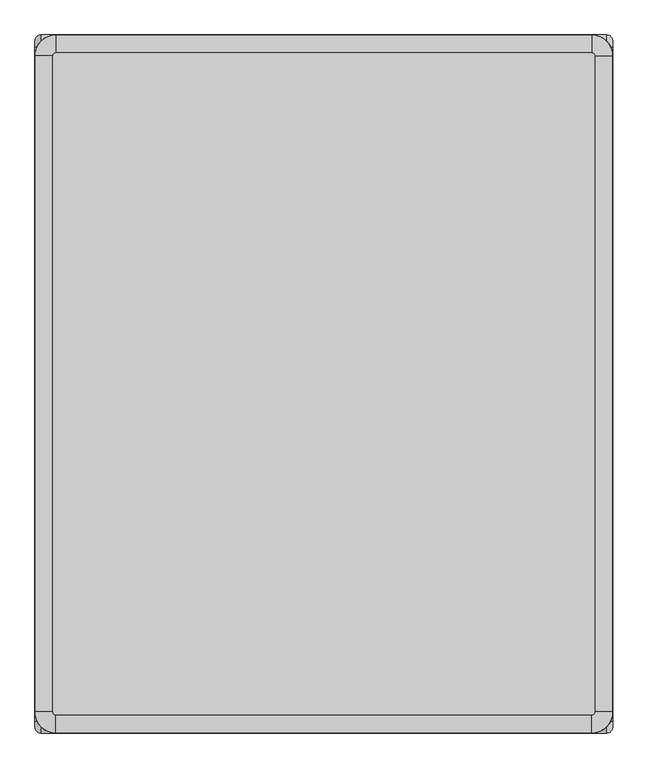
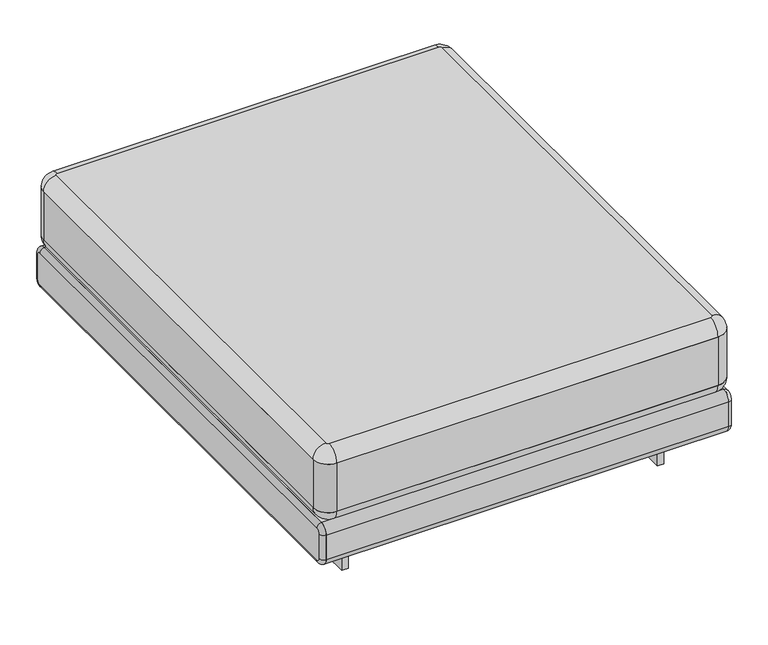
"""IFC4 building model written with IfcOpenShell, lengths in millimetres: furniture geometry, Ottoman_Bensen_Elle_ELD000 : Ottoman_Bensen_Elle_ELD000."""

from ifc_helpers import new_model, si_unit, point, frame, frame_2d, origin, origin_with_axes, place, context, project, spatial, polyline, circle_curve, ellipse_curve, trimmed, segment, composite_curve, outline, extrude, source, transform, mapped, element, save
from ifc_brep_helpers import plane_surface, cylinder_surface, revolved_surface, advanced_brep


def furniture_bdf2a79c(model_context):
    return source(origin(), model_context, "Body", "SolidModel", [
        advanced_brep(
        [(445.0, -549.9876377, 379.9974677), (450.0, -544.9876377, 379.9974643), (450.0, 545.0123623, 379.9967266), (445.0, 550.0123623, 379.9967232), (-445.0, 550.0123623, 379.9967232), (-450.0, 545.0123623, 379.9967266), (-450.0, -544.9876377, 379.9974643), (-445.0, -549.9876377, 379.9974677), (480.0, -544.987658, 349.9974643), (445.0, -579.987658, 349.997488), (-445.0, -579.987658, 349.997488), (-480.0, -544.987658, 349.9974643), (-480.0, 545.012342, 349.9967266), (-445.0, 580.012342, 349.9967029), (445.0, 580.012342, 349.9967029), (480.0, 545.012342, 349.9967266)],
        [
            (0, 1, circle_curve(frame((445.0, -544.9876377, 379.9974643), z_axis=(0.0, 6.768624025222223e-07, 0.999999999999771), x_axis=(1.0, 0.0, 0.0)), 5.0)),
            (1, 2),
            (2, 3, circle_curve(frame((445.0, 545.0123623, 379.9967266), z_axis=(0.0, 6.768624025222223e-07, 0.999999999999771), x_axis=(0.0, 0.999999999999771, -6.768624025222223e-07)), 5.0)),
            (3, 4),
            (4, 5, circle_curve(frame((-445.0, 545.0123623, 379.9967266), z_axis=(0.0, 6.768624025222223e-07, 0.999999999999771), x_axis=(-1.0, 0.0, 0.0)), 5.0)),
            (5, 6),
            (6, 7, circle_curve(frame((-445.0, -544.9876377, 379.9974643), z_axis=(0.0, 6.768624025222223e-07, 0.999999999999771), x_axis=(0.0, -0.999999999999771, 6.768624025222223e-07)), 5.0)),
            (7, 0),
            (8, 9, circle_curve(frame((445.0, -544.987658, 349.9974643), z_axis=(0.0, -6.768624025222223e-07, -0.999999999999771), x_axis=(1.0, 0.0, 0.0)), 35.0)),
            (9, 10),
            (10, 11, circle_curve(frame((-445.0, -544.987658, 349.9974643), z_axis=(0.0, -6.768624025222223e-07, -0.999999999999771), x_axis=(0.0, -0.999999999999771, 6.768624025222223e-07)), 35.0)),
            (11, 12),
            (12, 13, circle_curve(frame((-445.0, 545.012342, 349.9967266), z_axis=(0.0, -6.768624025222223e-07, -0.999999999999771), x_axis=(-1.0, 0.0, 0.0)), 35.0)),
            (13, 14),
            (14, 15, circle_curve(frame((445.0, 545.012342, 349.9967266), z_axis=(0.0, -6.768624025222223e-07, -0.999999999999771), x_axis=(0.0, 0.999999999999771, -6.768624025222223e-07)), 35.0)),
            (15, 8),
            (8, 1, circle_curve(frame((450.0, -544.987658, 349.9974643), z_axis=(0.0, -0.999999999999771, 6.768624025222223e-07), x_axis=(1.0, 0.0, 0.0)), 30.0)),
            (0, 9, circle_curve(frame((445.0, -549.987658, 349.9974677), z_axis=(1.0, 0.0, 0.0), x_axis=(0.0, -0.999999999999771, 6.768624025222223e-07)), 30.0)),
            (7, 10, circle_curve(frame((-445.0, -549.987658, 349.9974677), z_axis=(1.0, 0.0, 0.0), x_axis=(0.0, -0.999999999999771, 6.768624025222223e-07)), 30.0)),
            (6, 11, circle_curve(frame((-450.0, -544.987658, 349.9974643), z_axis=(0.0, -0.999999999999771, 6.768624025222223e-07), x_axis=(-1.0, 0.0, 0.0)), 30.0)),
            (5, 12, circle_curve(frame((-450.0, 545.012342, 349.9967266), z_axis=(0.0, -0.999999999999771, 6.768624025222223e-07), x_axis=(-1.0, 0.0, 0.0)), 30.0)),
            (4, 13, circle_curve(frame((-445.0, 550.012342, 349.9967232), z_axis=(-1.0, 0.0, 0.0), x_axis=(0.0, 0.999999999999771, -6.768624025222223e-07)), 30.0)),
            (3, 14, circle_curve(frame((445.0, 550.012342, 349.9967232), z_axis=(-1.0, 0.0, 0.0), x_axis=(0.0, 0.999999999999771, -6.768624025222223e-07)), 30.0)),
            (2, 15, circle_curve(frame((450.0, 545.012342, 349.9967266), z_axis=(0.0, 0.999999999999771, -6.768624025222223e-07), x_axis=(1.0, 0.0, 0.0)), 30.0)),
        ],
        [
            plane_surface(frame((445.0, 540.0123623, 379.9967299), z_axis=(0.0, 6.768624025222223e-07, 0.999999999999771), x_axis=(1.0, 0.0, 0.0))),
            plane_surface(frame((445.0, 540.012342, 349.9967299), z_axis=(0.0, -6.768624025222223e-07, -0.999999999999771), x_axis=(-1.0, 0.0, 0.0))),
            revolved_surface(trimmed(ellipse_curve(frame((450.0, -544.987658, 349.9974643), z_axis=(0.0, 0.999999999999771, -6.768624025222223e-07), x_axis=(1.0, 0.0, 0.0)), 30.0, 30.0), [point((450.0, -544.9876377, 379.9974643))], [point((480.0, -544.987658, 349.9974643))], True, "CARTESIAN"), (445.0, -544.9877731, 179.9974643), (0.0, -6.768624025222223e-07, -0.999999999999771)),
            cylinder_surface(frame((445.0, -549.987658, 349.9974677), z_axis=(1.0, 0.0, 0.0), x_axis=(0.0, -0.999999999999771, 6.768624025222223e-07)), 30.0),
            revolved_surface(trimmed(ellipse_curve(frame((-445.0, -549.987658, 349.9974677), z_axis=(1.0, 0.0, 0.0), x_axis=(0.0, -0.999999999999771, 6.768624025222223e-07)), 30.0, 30.0), [point((-445.0, -549.9876377, 379.9974677))], [point((-445.0, -579.987658, 349.997488))], True, "CARTESIAN"), (-445.0, -544.9877731, 179.9974643), (0.0, -6.768624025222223e-07, -0.999999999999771)),
            cylinder_surface(frame((-450.0, -544.987658, 349.9974643), z_axis=(0.0, -0.999999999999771, 6.768624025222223e-07), x_axis=(-1.0, 0.0, 0.0)), 30.0),
            revolved_surface(trimmed(ellipse_curve(frame((-450.0, 545.012342, 349.9967266), z_axis=(0.0, -0.999999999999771, 6.768624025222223e-07), x_axis=(-1.0, 0.0, 0.0)), 30.0, 30.0), [point((-450.0, 545.0123623, 379.9967266))], [point((-480.0, 545.012342, 349.9967266))], True, "CARTESIAN"), (-445.0, 545.0122269, 179.9967266), (0.0, -6.768624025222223e-07, -0.999999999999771)),
            cylinder_surface(frame((-445.0, 550.012342, 349.9967232), z_axis=(-1.0, 0.0, 0.0), x_axis=(0.0, 0.999999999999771, -6.768624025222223e-07)), 30.0),
            revolved_surface(trimmed(ellipse_curve(frame((445.0, 550.012342, 349.9967232), z_axis=(-1.0, 0.0, 0.0), x_axis=(0.0, 0.999999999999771, -6.768624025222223e-07)), 30.0, 30.0), [point((445.0, 550.0123623, 379.9967232))], [point((445.0, 580.012342, 349.9967029))], True, "CARTESIAN"), (445.0, 545.0122269, 179.9967266), (0.0, -6.768624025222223e-07, -0.999999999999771)),
            cylinder_surface(frame((450.0, 545.012342, 349.9967266), z_axis=(0.0, 0.999999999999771, -6.768624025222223e-07), x_axis=(1.0, 0.0, 0.0)), 30.0),
        ],
        [
            (0, [[1, 2, 3, 4, 5, 6, 7, 8]]),
            (1, [[9, 10, 11, 12, 13, 14, 15, 16]]),
            (2, [[-9, 17, -1, 18]]),
            (3, [[-18, -8, 19, -10]]),
            (4, [[-19, -7, 20, -11]]),
            (5, [[-20, -6, 21, -12]]),
            (6, [[-21, -5, 22, -13]]),
            (7, [[-22, -4, 23, -14]]),
            (8, [[-23, -3, 24, -15]]),
            (9, [[-17, -16, -24, -2]]),
        ],
    ),
        advanced_brep(
        [(445.0, -579.9877393, 229.997488), (480.0, -544.9877393, 229.9974643), (480.0, 545.0122607, 229.9967266), (445.0, 580.0122607, 229.9967029), (-445.0, 580.0122607, 229.9967029), (-480.0, 545.0122607, 229.9967266), (-480.0, -544.9877393, 229.9974643), (-445.0, -579.9877393, 229.997488), (450.0, -544.9877596, 199.9974643), (445.0, -549.9877596, 199.9974677), (-445.0, -549.9877596, 199.9974677), (-450.0, -544.9877596, 199.9974643), (-450.0, 545.0122404, 199.9967266), (-445.0, 550.0122404, 199.9967232), (445.0, 550.0122404, 199.9967232), (450.0, 545.0122404, 199.9967266)],
        [
            (0, 1, circle_curve(frame((445.0, -544.9877393, 229.9974643), z_axis=(0.0, 6.768624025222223e-07, 0.999999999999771), x_axis=(1.0, 0.0, 0.0)), 35.0)),
            (1, 2),
            (2, 3, circle_curve(frame((445.0, 545.0122607, 229.9967266), z_axis=(0.0, 6.768624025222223e-07, 0.999999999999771), x_axis=(0.0, 0.999999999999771, -6.768624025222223e-07)), 35.0)),
            (3, 4),
            (4, 5, circle_curve(frame((-445.0, 545.0122607, 229.9967266), z_axis=(0.0, 6.768624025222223e-07, 0.999999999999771), x_axis=(-1.0, 0.0, 0.0)), 35.0)),
            (5, 6),
            (6, 7, circle_curve(frame((-445.0, -544.9877393, 229.9974643), z_axis=(0.0, 6.768624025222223e-07, 0.999999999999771), x_axis=(0.0, -0.999999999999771, 6.768624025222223e-07)), 35.0)),
            (7, 0),
            (8, 9, circle_curve(frame((445.0, -544.9877596, 199.9974643), z_axis=(0.0, -6.768624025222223e-07, -0.999999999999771), x_axis=(1.0, 0.0, 0.0)), 5.0)),
            (9, 10),
            (10, 11, circle_curve(frame((-445.0, -544.9877596, 199.9974643), z_axis=(0.0, -6.768624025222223e-07, -0.999999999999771), x_axis=(0.0, -0.999999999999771, 6.768624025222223e-07)), 5.0)),
            (11, 12),
            (12, 13, circle_curve(frame((-445.0, 545.0122404, 199.9967266), z_axis=(0.0, -6.768624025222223e-07, -0.999999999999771), x_axis=(-1.0, 0.0, 0.0)), 5.0)),
            (13, 14),
            (14, 15, circle_curve(frame((445.0, 545.0122404, 199.9967266), z_axis=(0.0, -6.768624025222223e-07, -0.999999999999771), x_axis=(0.0, 0.999999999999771, -6.768624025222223e-07)), 5.0)),
            (15, 8),
            (8, 1, circle_curve(frame((450.0, -544.9877393, 229.9974643), z_axis=(0.0, -0.999999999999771, 6.768624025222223e-07), x_axis=(1.0, 0.0, 0.0)), 30.0)),
            (0, 9, circle_curve(frame((445.0, -549.9877393, 229.9974677), z_axis=(1.0, 0.0, 0.0), x_axis=(0.0, -0.999999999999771, 6.768624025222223e-07)), 30.0)),
            (7, 10, circle_curve(frame((-445.0, -549.9877393, 229.9974677), z_axis=(1.0, 0.0, 0.0), x_axis=(0.0, -0.999999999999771, 6.768624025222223e-07)), 30.0)),
            (6, 11, circle_curve(frame((-450.0, -544.9877393, 229.9974643), z_axis=(0.0, -0.999999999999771, 6.768624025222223e-07), x_axis=(-1.0, 0.0, 0.0)), 30.0)),
            (5, 12, circle_curve(frame((-450.0, 545.0122607, 229.9967266), z_axis=(0.0, -0.999999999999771, 6.768624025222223e-07), x_axis=(-1.0, 0.0, 0.0)), 30.0)),
            (4, 13, circle_curve(frame((-445.0, 550.0122607, 229.9967232), z_axis=(-1.0, 0.0, 0.0), x_axis=(0.0, 0.999999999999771, -6.768624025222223e-07)), 30.0)),
            (3, 14, circle_curve(frame((445.0, 550.0122607, 229.9967232), z_axis=(-1.0, 0.0, 0.0), x_axis=(0.0, 0.999999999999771, -6.768624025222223e-07)), 30.0)),
            (2, 15, circle_curve(frame((450.0, 545.0122607, 229.9967266), z_axis=(0.0, 0.999999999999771, -6.768624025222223e-07), x_axis=(1.0, 0.0, 0.0)), 30.0)),
        ],
        [
            plane_surface(frame((445.0, 540.0122607, 229.9967299), z_axis=(0.0, 6.768624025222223e-07, 0.999999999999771), x_axis=(1.0, 0.0, 0.0))),
            plane_surface(frame((445.0, 540.0122404, 199.9967299), z_axis=(0.0, -6.768624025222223e-07, -0.999999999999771), x_axis=(-1.0, 0.0, 0.0))),
            revolved_surface(trimmed(ellipse_curve(frame((450.0, -544.9877393, 229.9974643), z_axis=(0.0, 0.999999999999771, -6.768624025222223e-07), x_axis=(1.0, 0.0, 0.0)), 30.0, 30.0), [point((480.0, -544.9877393, 229.9974643))], [point((450.0, -544.9877596, 199.9974643))], True, "CARTESIAN"), (445.0, -544.9877393, 229.9974643), (0.0, -6.768624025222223e-07, -0.999999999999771)),
            cylinder_surface(frame((445.0, -549.9877393, 229.9974677), z_axis=(1.0, 0.0, 0.0), x_axis=(0.0, -0.999999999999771, 6.768624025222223e-07)), 30.0),
            revolved_surface(trimmed(ellipse_curve(frame((-445.0, -549.9877393, 229.9974677), z_axis=(1.0, 0.0, 0.0), x_axis=(0.0, -0.999999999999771, 6.768624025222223e-07)), 30.0, 30.0), [point((-445.0, -579.9877393, 229.997488))], [point((-445.0, -549.9877596, 199.9974677))], True, "CARTESIAN"), (-445.0, -544.9877393, 229.9974643), (0.0, -6.768624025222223e-07, -0.999999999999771)),
            cylinder_surface(frame((-450.0, -544.9877393, 229.9974643), z_axis=(0.0, -0.999999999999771, 6.768624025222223e-07), x_axis=(-1.0, 0.0, 0.0)), 30.0),
            revolved_surface(trimmed(ellipse_curve(frame((-450.0, 545.0122607, 229.9967266), z_axis=(0.0, -0.999999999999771, 6.768624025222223e-07), x_axis=(-1.0, 0.0, 0.0)), 30.0, 30.0), [point((-480.0, 545.0122607, 229.9967266))], [point((-450.0, 545.0122404, 199.9967266))], True, "CARTESIAN"), (-445.0, 545.0122607, 229.9967266), (0.0, -6.768624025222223e-07, -0.999999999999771)),
            cylinder_surface(frame((-445.0, 550.0122607, 229.9967232), z_axis=(-1.0, 0.0, 0.0), x_axis=(0.0, 0.999999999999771, -6.768624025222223e-07)), 30.0),
            revolved_surface(trimmed(ellipse_curve(frame((445.0, 550.0122607, 229.9967232), z_axis=(-1.0, 0.0, 0.0), x_axis=(0.0, 0.999999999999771, -6.768624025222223e-07)), 30.0, 30.0), [point((445.0, 580.0122607, 229.9967029))], [point((445.0, 550.0122404, 199.9967232))], True, "CARTESIAN"), (445.0, 545.0122607, 229.9967266), (0.0, -6.768624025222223e-07, -0.999999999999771)),
            cylinder_surface(frame((450.0, 545.0122607, 229.9967266), z_axis=(0.0, 0.999999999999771, -6.768624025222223e-07), x_axis=(1.0, 0.0, 0.0)), 30.0),
        ],
        [
            (0, [[1, 2, 3, 4, 5, 6, 7, 8]]),
            (1, [[9, 10, 11, 12, 13, 14, 15, 16]]),
            (2, [[17, -1, 18, -9]]),
            (3, [[-18, -8, 19, -10]]),
            (4, [[-19, -7, 20, -11]]),
            (5, [[-20, -6, 21, -12]]),
            (6, [[-21, -5, 22, -13]]),
            (7, [[-22, -4, 23, -14]]),
            (8, [[-23, -3, 24, -15]]),
            (9, [[-17, -16, -24, -2]]),
        ],
    ),
        extrude(outline(composite_curve([segment(polyline([(-35.0, -35.0), (-35.0, 1055.0)]), True, "CONTINUOUS"), segment(trimmed(circle_curve(frame_2d((0.0, 1055.0)), 35.0), [point((-35.0, 1055.0))], [point((0.0, 1090.0))], False, "CARTESIAN"), True, "CONTINUOUS"), segment(polyline([(0.0, 1090.0), (890.0, 1090.0)]), True, "CONTINUOUS"), segment(trimmed(circle_curve(frame_2d((890.0, 1055.0)), 35.0), [point((890.0, 1090.0))], [point((925.0, 1055.0))], False, "CARTESIAN"), True, "CONTINUOUS"), segment(polyline([(925.0, 1055.0), (925.0, -35.0)]), True, "CONTINUOUS"), segment(trimmed(circle_curve(frame_2d((890.0, -35.0)), 35.0), [point((925.0, -35.0))], [point((890.0, -70.0))], False, "CARTESIAN"), True, "CONTINUOUS"), segment(polyline([(890.0, -70.0), (0.0, -70.0)]), True, "CONTINUOUS"), segment(trimmed(circle_curve(frame_2d((0.0, -35.0)), 35.0), [point((0.0, -70.0))], [point((-35.0, -35.0))], False, "CARTESIAN"), True, "CONTINUOUS")], self_intersect=False)), frame((445.0, 510.0122607, 229.9967503), z_axis=(0.0, 6.768624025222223e-07, 0.999999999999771), x_axis=(-1.0, 0.0, 0.0)), (0.0, 0.0, 1.0), 120.0),
        extrude(outline(polyline([(-360.9723101, 400.0000473), (-375.9723101, 400.0000473), (-375.9723101, 460.0000473), (-360.9723101, 460.0000473), (-360.9723101, 400.0000473)])), origin_with_axes(), (0.0, 0.0, 1.0), 100.0),
        extrude(outline(polyline([(375.9723055, 400.0000473), (360.9723055, 400.0000473), (360.9723055, 460.0000473), (375.9723055, 460.0000473), (375.9723055, 400.0000473)])), origin_with_axes(), (0.0, 0.0, 1.0), 100.0),
        extrude(outline(polyline([(-360.9723101, -479.9999527), (-375.9723101, -479.9999527), (-375.9723101, -419.9999527), (-360.9723101, -419.9999527), (-360.9723101, -479.9999527)])), origin_with_axes(), (0.0, 0.0, 1.0), 100.0),
        extrude(outline(polyline([(375.9723055, -479.9999527), (360.9723055, -479.9999527), (360.9723055, -419.9999527), (375.9723055, -419.9999527), (375.9723055, -479.9999527)])), origin_with_axes(), (0.0, 0.0, 1.0), 100.0),
        advanced_brep(
        [(480.0, 570.012342, 179.9976602), (470.0, 580.012342, 179.9976602), (470.0, 560.012342, 199.9976602), (480.0, 560.012342, 189.9976602), (470.0, -559.9999527, 199.9976602), (480.0, -559.9999527, 189.9976602), (480.0, -569.9999527, 179.9976602), (470.0, -579.9999527, 179.9976602), (470.0, -579.9999527, 119.995172), (480.0, -569.9999527, 119.995172), (470.0, -559.9999527, 99.995172), (480.0, -559.9999527, 109.995172), (470.0, 560.012342, 99.995172), (480.0, 560.012342, 109.995172), (470.0, 580.012342, 119.995172), (480.0, 570.012342, 119.995172)],
        [
            (0, 1, circle_curve(frame((470.0, 570.012342, 179.9976602), z_axis=(0.0, 0.0, 1.0), x_axis=(-1.0, 0.0, 0.0)), 10.0)),
            (1, 2, circle_curve(frame((470.0, 560.012342, 179.9976602), z_axis=(1.0, 0.0, 0.0), x_axis=(0.0, 1.0, 0.0)), 20.0)),
            (2, 3, circle_curve(frame((470.0, 560.012342, 189.9976602), z_axis=(0.0, 1.0, 0.0), x_axis=(-1.0, 0.0, 0.0)), 10.0)),
            (3, 0, circle_curve(frame((480.0, 560.012342, 179.9976602), z_axis=(-1.0, 0.0, 0.0), x_axis=(0.0, 1.0, 0.0)), 10.0)),
            (2, 4),
            (4, 5, circle_curve(frame((470.0, -559.9999527, 189.9976602), z_axis=(0.0, 1.0, 0.0), x_axis=(-1.0, 0.0, 0.0)), 10.0)),
            (5, 3),
            (6, 7, circle_curve(frame((470.0, -569.9999527, 179.9976602), z_axis=(0.0, 0.0, -1.0), x_axis=(-1.0, 0.0, 0.0)), 10.0)),
            (7, 8),
            (8, 9, circle_curve(frame((470.0, -569.9999527, 119.995172), z_axis=(0.0, 0.0, 1.0), x_axis=(-1.0, 0.0, 0.0)), 10.0)),
            (9, 6),
            (8, 10, circle_curve(frame((470.0, -559.9999527, 119.995172), z_axis=(1.0, 0.0, 0.0), x_axis=(0.0, -1.0, 0.0)), 20.0)),
            (10, 11, circle_curve(frame((470.0, -559.9999527, 109.995172), z_axis=(0.0, -1.0, 0.0), x_axis=(-1.0, 0.0, 0.0)), 10.0)),
            (11, 9, circle_curve(frame((480.0, -559.9999527, 119.995172), z_axis=(-1.0, 0.0, 0.0), x_axis=(0.0, -1.0, 0.0)), 10.0)),
            (10, 12),
            (12, 13, circle_curve(frame((470.0, 560.012342, 109.995172), z_axis=(0.0, -1.0, 0.0), x_axis=(-1.0, 0.0, 0.0)), 10.0)),
            (13, 11),
            (12, 14, circle_curve(frame((470.0, 560.012342, 119.995172), z_axis=(1.0, 0.0, 0.0), x_axis=(0.0, 0.0, -1.0)), 20.0)),
            (14, 15, circle_curve(frame((470.0, 570.012342, 119.995172), z_axis=(0.0, 0.0, -1.0), x_axis=(-1.0, 0.0, 0.0)), 10.0)),
            (15, 13, circle_curve(frame((480.0, 560.012342, 119.995172), z_axis=(-1.0, 0.0, 0.0), x_axis=(0.0, 0.0, -1.0)), 10.0)),
            (0, 15),
            (14, 1),
            (4, 7, circle_curve(frame((470.0, -559.9999527, 179.9976602), z_axis=(1.0, 0.0, 0.0), x_axis=(0.0, 0.0, 1.0)), 20.0)),
            (6, 5, circle_curve(frame((480.0, -559.9999527, 179.9976602), z_axis=(-1.0, 0.0, 0.0), x_axis=(0.0, 0.0, 1.0)), 10.0)),
        ],
        [
            revolved_surface(trimmed(ellipse_curve(frame((470.0, 570.012342, 179.9976602), z_axis=(0.0, 0.0, -1.0), x_axis=(-1.0, 0.0, 0.0)), 10.0, 10.0), [point((470.0, 580.012342, 179.9976602))], [point((480.0, 570.012342, 179.9976602))], True, "CARTESIAN"), (470.0, 560.012342, 179.9976602), (1.0, 0.0, 0.0)),
            cylinder_surface(frame((470.0, 560.012342, 189.9976602), z_axis=(0.0, 1.0, 0.0), x_axis=(-1.0, 0.0, 0.0)), 10.0),
            cylinder_surface(frame((470.0, -569.9999527, 179.9976602), z_axis=(0.0, 0.0, 1.0), x_axis=(-1.0, 0.0, 0.0)), 10.0),
            revolved_surface(trimmed(ellipse_curve(frame((470.0, -569.9999527, 119.995172), z_axis=(0.0, 0.0, 1.0), x_axis=(-1.0, 0.0, 0.0)), 10.0, 10.0), [point((470.0, -579.9999527, 119.995172))], [point((480.0, -569.9999527, 119.995172))], True, "CARTESIAN"), (470.0, -559.9999527, 119.995172), (1.0, 0.0, 0.0)),
            cylinder_surface(frame((470.0, -559.9999527, 109.995172), z_axis=(0.0, -1.0, 0.0), x_axis=(-1.0, 0.0, 0.0)), 10.0),
            revolved_surface(trimmed(ellipse_curve(frame((470.0, 560.012342, 109.995172), z_axis=(0.0, -1.0, 0.0), x_axis=(-1.0, 0.0, 0.0)), 10.0, 10.0), [point((470.0, 560.012342, 99.995172))], [point((480.0, 560.012342, 109.995172))], True, "CARTESIAN"), (470.0, 560.012342, 119.995172), (1.0, 0.0, 0.0)),
            cylinder_surface(frame((470.0, 570.012342, 119.995172), z_axis=(0.0, 0.0, -1.0), x_axis=(-1.0, 0.0, 0.0)), 10.0),
            revolved_surface(trimmed(ellipse_curve(frame((470.0, -559.9999527, 189.9976602), z_axis=(0.0, 1.0, 0.0), x_axis=(-1.0, 0.0, 0.0)), 10.0, 10.0), [point((470.0, -559.9999527, 199.9976602))], [point((480.0, -559.9999527, 189.9976602))], True, "CARTESIAN"), (470.0, -559.9999527, 179.9976602), (1.0, 0.0, 0.0)),
            plane_surface(frame((470.0, -559.9999527, 179.9976602), z_axis=(-1.0, 0.0, 0.0), x_axis=(0.0, 0.0, 1.0))),
            plane_surface(frame((480.0, 570.012342, 179.9976602), z_axis=(1.0, 0.0, 0.0), x_axis=(0.0, 0.0, 1.0))),
        ],
        [
            (0, [[1, 2, 3, 4]]),
            (1, [[-3, 5, 6, 7]]),
            (2, [[8, 9, 10, 11]]),
            (3, [[-10, 12, 13, 14]]),
            (4, [[-13, 15, 16, 17]]),
            (5, [[-16, 18, 19, 20]]),
            (6, [[-1, 21, -19, 22]]),
            (7, [[-6, 23, -8, 24]]),
            (8, [[-2, -22, -18, -15, -12, -9, -23, -5]]),
            (9, [[-4, -7, -24, -11, -14, -17, -20, -21]]),
        ],
    ),
        advanced_brep(
        [(-470.0, 560.012342, 199.9976602), (-470.0, 580.012342, 179.9976602), (-480.0, 570.012342, 179.9976602), (-480.0, 560.012342, 189.9976602), (-480.0, -559.9999527, 189.9976602), (-470.0, -559.9999527, 199.9976602), (-470.0, -579.9999527, 179.9976602), (-480.0, -569.9999527, 179.9976602), (-480.0, -569.9999527, 119.995172), (-470.0, -579.9999527, 119.995172), (-480.0, -559.9999527, 109.995172), (-470.0, -559.9999527, 99.995172), (-480.0, 560.012342, 109.995172), (-470.0, 560.012342, 99.995172), (-480.0, 570.012342, 119.995172), (-470.0, 580.012342, 119.995172)],
        [
            (0, 1, circle_curve(frame((-470.0, 560.012342, 179.9976602), z_axis=(-1.0, 0.0, 0.0), x_axis=(0.0, 1.0, 0.0)), 20.0)),
            (1, 2, circle_curve(frame((-470.0, 570.012342, 179.9976602), z_axis=(0.0, 0.0, 1.0), x_axis=(1.0, 0.0, 0.0)), 10.0)),
            (2, 3, circle_curve(frame((-480.0, 560.012342, 179.9976602), z_axis=(1.0, 0.0, 0.0), x_axis=(0.0, 1.0, 0.0)), 10.0)),
            (3, 0, circle_curve(frame((-470.0, 560.012342, 189.9976602), z_axis=(0.0, 1.0, 0.0), x_axis=(1.0, 0.0, 0.0)), 10.0)),
            (3, 4),
            (4, 5, circle_curve(frame((-470.0, -559.9999527, 189.9976602), z_axis=(0.0, 1.0, 0.0), x_axis=(1.0, 0.0, 0.0)), 10.0)),
            (5, 0),
            (6, 7, circle_curve(frame((-470.0, -569.9999527, 179.9976602), z_axis=(0.0, 0.0, -1.0), x_axis=(1.0, 0.0, 0.0)), 10.0)),
            (7, 8),
            (8, 9, circle_curve(frame((-470.0, -569.9999527, 119.995172), z_axis=(0.0, 0.0, 1.0), x_axis=(1.0, 0.0, 0.0)), 10.0)),
            (9, 6),
            (8, 10, circle_curve(frame((-480.0, -559.9999527, 119.995172), z_axis=(1.0, 0.0, 0.0), x_axis=(0.0, -1.0, 0.0)), 10.0)),
            (10, 11, circle_curve(frame((-470.0, -559.9999527, 109.995172), z_axis=(0.0, -1.0, 0.0), x_axis=(1.0, 0.0, 0.0)), 10.0)),
            (11, 9, circle_curve(frame((-470.0, -559.9999527, 119.995172), z_axis=(-1.0, 0.0, 0.0), x_axis=(0.0, -1.0, 0.0)), 20.0)),
            (10, 12),
            (12, 13, circle_curve(frame((-470.0, 560.012342, 109.995172), z_axis=(0.0, -1.0, 0.0), x_axis=(1.0, 0.0, 0.0)), 10.0)),
            (13, 11),
            (12, 14, circle_curve(frame((-480.0, 560.012342, 119.995172), z_axis=(1.0, 0.0, 0.0), x_axis=(0.0, 0.0, -1.0)), 10.0)),
            (14, 15, circle_curve(frame((-470.0, 570.012342, 119.995172), z_axis=(0.0, 0.0, -1.0), x_axis=(1.0, 0.0, 0.0)), 10.0)),
            (15, 13, circle_curve(frame((-470.0, 560.012342, 119.995172), z_axis=(-1.0, 0.0, 0.0), x_axis=(0.0, 0.0, -1.0)), 20.0)),
            (1, 15),
            (14, 2),
            (4, 7, circle_curve(frame((-480.0, -559.9999527, 179.9976602), z_axis=(1.0, 0.0, 0.0), x_axis=(0.0, 0.0, 1.0)), 10.0)),
            (6, 5, circle_curve(frame((-470.0, -559.9999527, 179.9976602), z_axis=(-1.0, 0.0, 0.0), x_axis=(0.0, 0.0, 1.0)), 20.0)),
        ],
        [
            revolved_surface(trimmed(ellipse_curve(frame((-470.0, 570.012342, 179.9976602), z_axis=(0.0, 0.0, -1.0), x_axis=(1.0, 0.0, 0.0)), 10.0, 10.0), [point((-480.0, 570.012342, 179.9976602))], [point((-470.0, 580.012342, 179.9976602))], True, "CARTESIAN"), (-470.0, 560.012342, 179.9976602), (1.0, 0.0, 0.0)),
            cylinder_surface(frame((-470.0, 560.012342, 189.9976602), z_axis=(0.0, 1.0, 0.0), x_axis=(1.0, 0.0, 0.0)), 10.0),
            cylinder_surface(frame((-470.0, -569.9999527, 179.9976602), z_axis=(0.0, 0.0, 1.0), x_axis=(1.0, 0.0, 0.0)), 10.0),
            revolved_surface(trimmed(ellipse_curve(frame((-470.0, -569.9999527, 119.995172), z_axis=(0.0, 0.0, 1.0), x_axis=(1.0, 0.0, 0.0)), 10.0, 10.0), [point((-480.0, -569.9999527, 119.995172))], [point((-470.0, -579.9999527, 119.995172))], True, "CARTESIAN"), (-470.0, -559.9999527, 119.995172), (1.0, 0.0, 0.0)),
            cylinder_surface(frame((-470.0, -559.9999527, 109.995172), z_axis=(0.0, -1.0, 0.0), x_axis=(1.0, 0.0, 0.0)), 10.0),
            revolved_surface(trimmed(ellipse_curve(frame((-470.0, 560.012342, 109.995172), z_axis=(0.0, -1.0, 0.0), x_axis=(1.0, 0.0, 0.0)), 10.0, 10.0), [point((-480.0, 560.012342, 109.995172))], [point((-470.0, 560.012342, 99.995172))], True, "CARTESIAN"), (-470.0, 560.012342, 119.995172), (1.0, 0.0, 0.0)),
            cylinder_surface(frame((-470.0, 570.012342, 119.995172), z_axis=(0.0, 0.0, -1.0), x_axis=(1.0, 0.0, 0.0)), 10.0),
            revolved_surface(trimmed(ellipse_curve(frame((-470.0, -559.9999527, 189.9976602), z_axis=(0.0, 1.0, 0.0), x_axis=(1.0, 0.0, 0.0)), 10.0, 10.0), [point((-480.0, -559.9999527, 189.9976602))], [point((-470.0, -559.9999527, 199.9976602))], True, "CARTESIAN"), (-470.0, -559.9999527, 179.9976602), (1.0, 0.0, 0.0)),
            plane_surface(frame((-470.0, -559.9999527, 179.9976602), z_axis=(1.0, 0.0, 0.0), x_axis=(0.0, 0.0, 1.0))),
            plane_surface(frame((-480.0, -559.9999527, 189.9976602), z_axis=(-1.0, 0.0, 0.0), x_axis=(0.0, 1.0, 0.0))),
        ],
        [
            (0, [[1, 2, 3, 4]]),
            (1, [[-4, 5, 6, 7]]),
            (2, [[8, 9, 10, 11]]),
            (3, [[-10, 12, 13, 14]]),
            (4, [[-13, 15, 16, 17]]),
            (5, [[-16, 18, 19, 20]]),
            (6, [[-2, 21, -19, 22]]),
            (7, [[-6, 23, -8, 24]]),
            (8, [[-1, -7, -24, -11, -14, -17, -20, -21]]),
            (9, [[-3, -22, -18, -15, -12, -9, -23, -5]]),
        ],
    ),
        advanced_brep(
        [(-470.0, -559.9999392, 199.9976771), (-470.0, 559.9603224, 199.9969191), (-470.0, 580.012342, 179.9969867), (-470.0, 580.012342, 119.9953981), (-470.0, 560.0122419, 99.9953981), (-470.0, -559.8586046, 100.0004995), (-470.0, -579.9999527, 120.0), (-470.0, -579.9999527, 179.9976094), (469.9999954, -559.9999392, 199.9976094), (469.9999954, -579.9999527, 179.9976094), (469.9999954, -579.9999527, 120.0), (469.9999954, -559.8586046, 100.0004995), (469.9999954, 560.0122419, 99.9948979), (469.9999954, 580.012342, 119.9953981), (469.9999954, 580.012342, 179.9969867), (469.9999954, 560.0643886, 199.996919)],
        [
            (0, 1),
            (1, 2, circle_curve(frame((-470.0, 560.012342, 179.9969867), z_axis=(-1.0, 0.0, 0.0), x_axis=(0.0, -1.0, 0.0)), 20.0)),
            (2, 3),
            (3, 4, circle_curve(frame((-470.0, 560.012342, 119.9953981), z_axis=(-1.0, 0.0, 0.0), x_axis=(0.0, 1.0, 0.0)), 20.0)),
            (4, 5),
            (5, 6, circle_curve(frame((-470.0, -559.9999527, 120.0), z_axis=(-1.0, 0.0, 0.0), x_axis=(0.0, 1.0, 0.0)), 20.0)),
            (6, 7),
            (7, 0, circle_curve(frame((-470.0, -559.9999527, 179.9976094), z_axis=(-1.0, 0.0, 0.0), x_axis=(0.0, 1.0, 0.0)), 20.0)),
            (8, 9, circle_curve(frame((469.9999954, -559.9999527, 179.9976094), z_axis=(1.0, 0.0, 0.0), x_axis=(0.0, 1.0, 0.0)), 20.0)),
            (9, 10),
            (10, 11, circle_curve(frame((469.9999954, -559.9999527, 120.0), z_axis=(1.0, 0.0, 0.0), x_axis=(0.0, 1.0, 0.0)), 20.0)),
            (11, 12),
            (12, 13, circle_curve(frame((469.9999954, 560.012342, 119.9953981), z_axis=(1.0, 0.0, 0.0), x_axis=(0.0, 1.0, 0.0)), 20.0)),
            (13, 14),
            (14, 15, circle_curve(frame((469.9999954, 560.012342, 179.9969867), z_axis=(1.0, 0.0, 0.0), x_axis=(0.0, -1.0, 0.0)), 20.0)),
            (15, 8),
            (4, 12),
            (11, 5),
            (0, 8),
            (15, 1),
            (14, 2),
            (13, 3),
            (10, 6),
            (9, 7),
        ],
        [
            plane_surface(frame((-470.0, 474.6996344, 199.9969768), z_axis=(-1.0, 0.0, 0.0), x_axis=(0.0, 0.999999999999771, -6.768624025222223e-07))),
            plane_surface(frame((469.9999954, 474.6996344, 199.9969768), z_axis=(1.0, 0.0, 0.0), x_axis=(0.0, -0.999999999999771, 6.768624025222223e-07))),
            plane_surface(frame((-470.0, 560.0122419, 99.9948979), z_axis=(0.0, -5.001959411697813e-06, -0.9999999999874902), x_axis=(1.0, 0.0, 0.0))),
            plane_surface(frame((-470.0, -559.9999392, 199.9976771), z_axis=(0.0, 6.768624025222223e-07, 0.999999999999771), x_axis=(1.0, 0.0, 0.0))),
            cylinder_surface(frame((469.9999954, 560.012342, 179.9969867), z_axis=(-1.0, 0.0, 0.0), x_axis=(0.0, -1.0, 0.0)), 20.0),
            plane_surface(frame((-470.0, 580.012342, 179.9969867), z_axis=(0.0, 1.0, 0.0), x_axis=(1.0, 0.0, 0.0))),
            cylinder_surface(frame((469.9999954, 560.012342, 119.9953981), z_axis=(-1.0, 0.0, 0.0), x_axis=(0.0, 1.0, 0.0)), 20.0),
            cylinder_surface(frame((469.9999954, -559.9999527, 120.0), z_axis=(-1.0, 0.0, 0.0), x_axis=(0.0, 1.0, 0.0)), 20.0),
            plane_surface(frame((-470.0, -579.9999527, 120.0), z_axis=(0.0, -1.0, 0.0), x_axis=(1.0, 0.0, 0.0))),
            cylinder_surface(frame((469.9999954, -559.9999527, 179.9976094), z_axis=(-1.0, 0.0, 0.0), x_axis=(0.0, 1.0, 0.0)), 20.0),
        ],
        [
            (0, [[1, 2, 3, 4, 5, 6, 7, 8]]),
            (1, [[9, 10, 11, 12, 13, 14, 15, 16]]),
            (2, [[-5, 17, -12, 18]]),
            (3, [[-1, 19, -16, 20]]),
            (4, [[-2, -20, -15, 21]]),
            (5, [[-3, -21, -14, 22]]),
            (6, [[-4, -22, -13, -17]]),
            (7, [[-6, -18, -11, 23]]),
            (8, [[-7, -23, -10, 24]]),
            (9, [[-8, -24, -9, -19]]),
        ],
    ),
    ])


if __name__ == "__main__":
    model = new_model("IFC4")
    model_context = context("Model", 3, world=origin())
    ifc_project = project(units=[si_unit("LENGTHUNIT", "METRE", prefix="MILLI")], contexts=[model_context])
    site = spatial("IfcSite", under=ifc_project)
    building = spatial("IfcBuilding", under=site)
    placement = place(None, origin())
    furniture_shape = furniture_bdf2a79c(model_context)
    element("IfcFurniture", 1, ObjectType="Ottoman_Bensen_Elle_ELD000 : Ottoman_Bensen_Elle_ELD000", at=placement, inside=building, context=model_context, shape_type="MappedRepresentation", body=[
        mapped(furniture_shape, transform((0.0, 0.0, 0.0), x_axis=(1.0, 0.0, 0.0), y_axis=(0.0, 1.0, 0.0), z_axis=(0.0, 0.0, 1.0))),
    ])
    save(model, "model.ifc")
